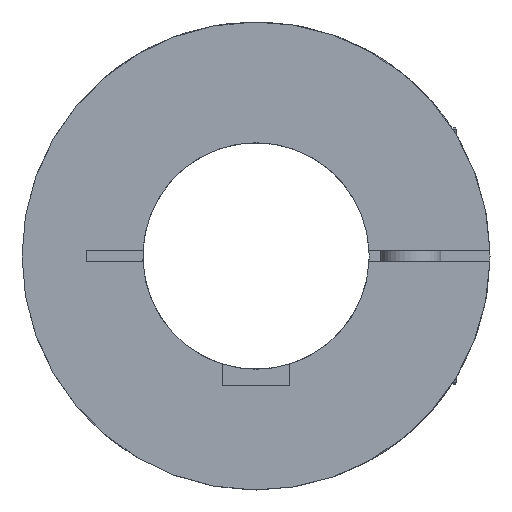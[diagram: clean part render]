
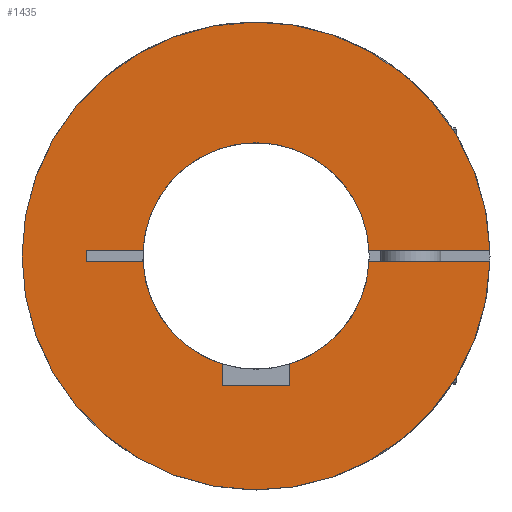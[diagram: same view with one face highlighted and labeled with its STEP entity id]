
A CAD part, left-side view. The second image highlights one B-rep face of the part: STEP entity #1435.
In plain terms, the highlighted planar face has unit normal (-1, 0, 0).
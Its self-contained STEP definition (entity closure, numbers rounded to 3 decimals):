
#54=PLANE('',#1571);
#115=LINE('',#2266,#226);
#117=LINE('',#2270,#228);
#118=LINE('',#2272,#229);
#127=LINE('',#2291,#238);
#133=LINE('',#2309,#244);
#135=LINE('',#2313,#246);
#136=LINE('',#2314,#247);
#137=LINE('',#2316,#248);
#226=VECTOR('',#1798,1.);
#228=VECTOR('',#1802,1.);
#229=VECTOR('',#1805,1.);
#238=VECTOR('',#1824,1000.);
#244=VECTOR('',#1840,1000.);
#246=VECTOR('',#1844,1000.);
#247=VECTOR('',#1845,1000.);
#248=VECTOR('',#1846,1000.);
#351=FACE_OUTER_BOUND('',#431,.T.);
#431=EDGE_LOOP('',(#1077,#1078,#1079,#1080,#1081,#1082,#1083,#1084,#1085,
#1086,#1087,#1088));
#535=CIRCLE('',#1542,30.);
#537=CIRCLE('',#1544,30.);
#546=CIRCLE('',#1555,30.);
#551=CIRCLE('',#1572,62.);
#630=VERTEX_POINT('',#2205);
#631=VERTEX_POINT('',#2207);
#634=VERTEX_POINT('',#2213);
#635=VERTEX_POINT('',#2215);
#650=VERTEX_POINT('',#2249);
#651=VERTEX_POINT('',#2250);
#656=VERTEX_POINT('',#2264);
#657=VERTEX_POINT('',#2268);
#662=VERTEX_POINT('',#2290);
#669=VERTEX_POINT('',#2308);
#670=VERTEX_POINT('',#2312);
#671=VERTEX_POINT('',#2315);
#786=EDGE_CURVE('',#631,#630,#535,.T.);
#790=EDGE_CURVE('',#635,#634,#537,.T.);
#807=EDGE_CURVE('',#650,#651,#546,.T.);
#815=EDGE_CURVE('',#634,#656,#115,.T.);
#817=EDGE_CURVE('',#656,#657,#117,.T.);
#818=EDGE_CURVE('',#657,#631,#118,.T.);
#827=EDGE_CURVE('',#635,#662,#127,.T.);
#836=EDGE_CURVE('',#669,#650,#133,.T.);
#838=EDGE_CURVE('',#670,#630,#135,.T.);
#839=EDGE_CURVE('',#669,#670,#136,.T.);
#840=EDGE_CURVE('',#651,#671,#137,.T.);
#841=EDGE_CURVE('',#671,#662,#551,.T.);
#1077=ORIENTED_EDGE('',*,*,#790,.T.);
#1078=ORIENTED_EDGE('',*,*,#815,.T.);
#1079=ORIENTED_EDGE('',*,*,#817,.T.);
#1080=ORIENTED_EDGE('',*,*,#818,.T.);
#1081=ORIENTED_EDGE('',*,*,#786,.T.);
#1082=ORIENTED_EDGE('',*,*,#838,.F.);
#1083=ORIENTED_EDGE('',*,*,#839,.F.);
#1084=ORIENTED_EDGE('',*,*,#836,.T.);
#1085=ORIENTED_EDGE('',*,*,#807,.T.);
#1086=ORIENTED_EDGE('',*,*,#840,.T.);
#1087=ORIENTED_EDGE('',*,*,#841,.T.);
#1088=ORIENTED_EDGE('',*,*,#827,.F.);
#1435=ADVANCED_FACE('',(#351),#54,.T.);
#1542=AXIS2_PLACEMENT_3D('',#2208,#1748,#1749);
#1544=AXIS2_PLACEMENT_3D('',#2216,#1754,#1755);
#1555=AXIS2_PLACEMENT_3D('',#2251,#1784,#1785);
#1571=AXIS2_PLACEMENT_3D('',#2311,#1842,#1843);
#1572=AXIS2_PLACEMENT_3D('',#2317,#1847,#1848);
#1748=DIRECTION('center_axis',(1.,0.,0.));
#1749=DIRECTION('ref_axis',(0.,0.,-1.));
#1754=DIRECTION('center_axis',(1.,0.,0.));
#1755=DIRECTION('ref_axis',(0.,0.,-1.));
#1784=DIRECTION('center_axis',(1.,0.,0.));
#1785=DIRECTION('ref_axis',(0.,0.,-1.));
#1798=DIRECTION('',(0.,0.,-1.));
#1802=DIRECTION('',(0.,1.,0.));
#1805=DIRECTION('',(0.,0.,1.));
#1824=DIRECTION('',(0.,-1.,0.));
#1840=DIRECTION('',(0.,-1.,0.));
#1842=DIRECTION('center_axis',(-1.,0.,0.));
#1843=DIRECTION('ref_axis',(0.,1.,0.));
#1844=DIRECTION('',(0.,-1.,0.));
#1845=DIRECTION('',(0.,0.,-1.));
#1846=DIRECTION('',(0.,-1.,0.));
#1847=DIRECTION('center_axis',(-1.,0.,0.));
#1848=DIRECTION('ref_axis',(0.,1.,0.));
#2205=CARTESIAN_POINT('',(0.,29.962,-1.5));
#2207=CARTESIAN_POINT('',(0.,9.,-28.618));
#2208=CARTESIAN_POINT('Origin',(0.,0.,0.));
#2213=CARTESIAN_POINT('',(0.,-9.,-28.618));
#2215=CARTESIAN_POINT('',(0.,-29.962,-1.5));
#2216=CARTESIAN_POINT('Origin',(0.,0.,0.));
#2249=CARTESIAN_POINT('',(0.,29.962,1.5));
#2250=CARTESIAN_POINT('',(0.,-29.962,1.5));
#2251=CARTESIAN_POINT('Origin',(0.,0.,0.));
#2264=CARTESIAN_POINT('',(0.,-9.,-34.4));
#2266=CARTESIAN_POINT('',(0.,-9.,-17.35));
#2268=CARTESIAN_POINT('',(0.,9.,-34.4));
#2270=CARTESIAN_POINT('',(0.,0.,-34.4));
#2272=CARTESIAN_POINT('',(0.,9.,-17.35));
#2290=CARTESIAN_POINT('',(0.,-61.982,-1.5));
#2291=CARTESIAN_POINT('',(0.,45.,-1.5));
#2308=CARTESIAN_POINT('',(0.,45.,1.5));
#2309=CARTESIAN_POINT('',(0.,45.,1.5));
#2311=CARTESIAN_POINT('Origin',(0.,0.,-17.5));
#2312=CARTESIAN_POINT('',(0.,45.,-1.5));
#2313=CARTESIAN_POINT('',(0.,45.,-1.5));
#2314=CARTESIAN_POINT('',(0.,45.,1.5));
#2315=CARTESIAN_POINT('',(0.,-61.982,1.5));
#2316=CARTESIAN_POINT('',(0.,45.,1.5));
#2317=CARTESIAN_POINT('Origin',(0.,0.,0.));
